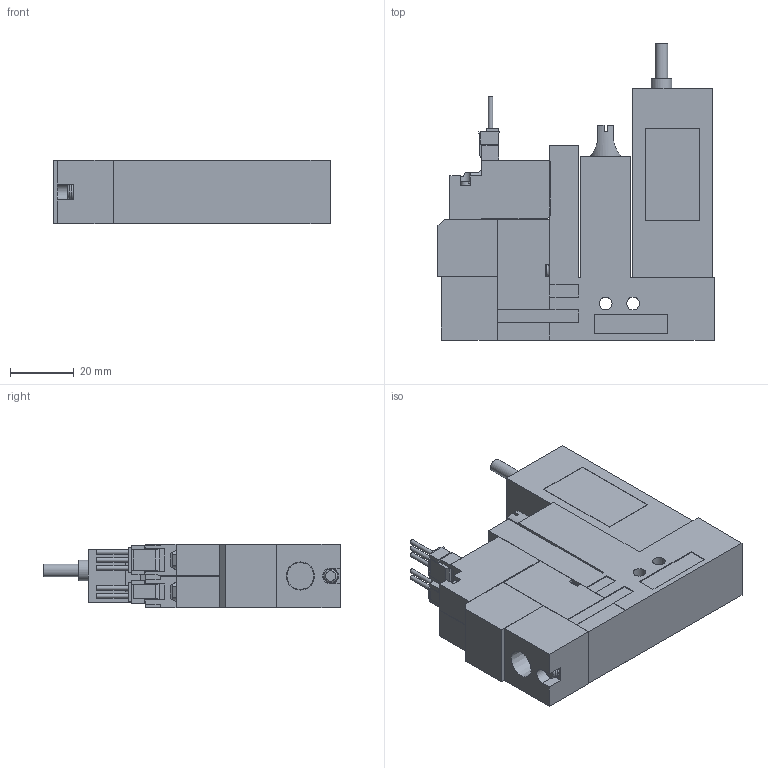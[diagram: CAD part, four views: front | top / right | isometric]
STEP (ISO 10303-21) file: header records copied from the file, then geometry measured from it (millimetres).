
FILE_DESCRIPTION(('STEP AP203'),'1');
FILE_NAME('VG_VGPL5WLR.stp','2025-02-17T00:21:49',(' '),(' '),'Spatial InterOp 3D',' ',' ');
FILE_SCHEMA(('CONFIG_CONTROL_DESIGN'));
Length unit declared in the file: millimetre
Products named in the file (5): BMC22S※※※※VG_VGPL5WLR; Solenoid valve W; Pressure sensor VGL; Unit L; Base SR10R
Assembly tree (4 placements, depth 2):
  BMC22S※※※※VG_VGPL5WLR
    Solenoid valve W
    Pressure sensor VGL
    Unit L
    Base SR10R
Bounding box: 86.6 x 93 x 20 mm (x, y, z)
Volume: 100110.8 mm3; surface area: 26747 mm2
Topology: 4 solids, 4 shells, 363 faces, 960 edges, 636 vertices
Faces by surface type: plane 310, cylinder 44, cone 6, torus 3
Full cylindrical faces by diameter (mm): 1.4 x5, 2.5 x3, 3 x4, 3.5 x4, 3.6 x1, 4 x6, 4.134 x1, 6 x1, 6.5 x1
Entity records: 11155 total; most frequent: CARTESIAN_POINT 1998, ORIENTED_EDGE 1822, DIRECTION 1771, EDGE_CURVE 911, LINE 779, VECTOR 779, VERTEX_POINT 623, AXIS2_PLACEMENT_3D 496
